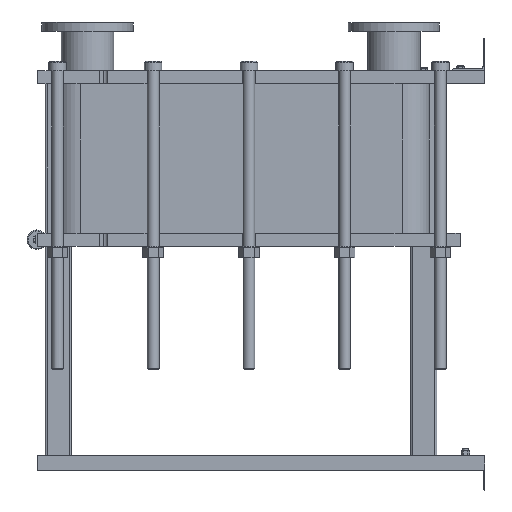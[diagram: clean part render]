
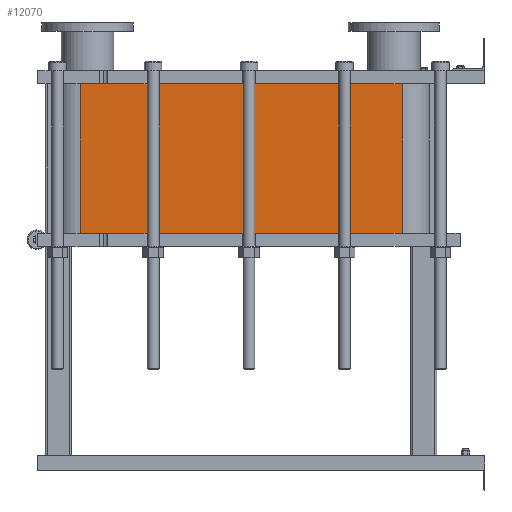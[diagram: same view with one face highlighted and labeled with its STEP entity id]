
A CAD part, left-side view. The second image highlights one B-rep face of the part: STEP entity #12070.
In plain terms, the highlighted planar face has unit normal (-1, 0, 0).
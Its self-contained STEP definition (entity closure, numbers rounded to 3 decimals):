
#1064=LINE('',#21140,#2164);
#1065=LINE('',#21144,#2165);
#1066=LINE('',#21146,#2166);
#1067=LINE('',#21147,#2167);
#2164=VECTOR('',#15790,10.);
#2165=VECTOR('',#15795,10.);
#2166=VECTOR('',#15796,10.);
#2167=VECTOR('',#15797,10.);
#3304=FACE_OUTER_BOUND('',#4091,.T.);
#4091=EDGE_LOOP('',(#9793,#9794,#9795,#9796));
#5677=VERTEX_POINT('',#21137);
#5678=VERTEX_POINT('',#21139);
#5679=VERTEX_POINT('',#21143);
#5680=VERTEX_POINT('',#21145);
#7118=EDGE_CURVE('',#5678,#5677,#1064,.T.);
#7120=EDGE_CURVE('',#5677,#5679,#1065,.T.);
#7121=EDGE_CURVE('',#5680,#5679,#1066,.T.);
#7122=EDGE_CURVE('',#5680,#5678,#1067,.T.);
#9793=ORIENTED_EDGE('',*,*,#7120,.T.);
#9794=ORIENTED_EDGE('',*,*,#7121,.F.);
#9795=ORIENTED_EDGE('',*,*,#7122,.T.);
#9796=ORIENTED_EDGE('',*,*,#7118,.T.);
#11441=PLANE('',#13191);
#12070=ADVANCED_FACE('',(#3304),#11441,.T.);
#13191=AXIS2_PLACEMENT_3D('',#21142,#15793,#15794);
#15790=DIRECTION('',(0.,0.,-1.));
#15793=DIRECTION('center_axis',(-1.,0.,0.));
#15794=DIRECTION('ref_axis',(0.,1.,0.));
#15795=DIRECTION('',(0.,-1.,0.));
#15796=DIRECTION('',(0.,0.,-1.));
#15797=DIRECTION('',(0.,1.,0.));
#21137=CARTESIAN_POINT('',(-248.152,1243.818,-458.85));
#21139=CARTESIAN_POINT('',(-248.152,1243.818,0.));
#21140=CARTESIAN_POINT('',(-248.152,1243.818,0.));
#21142=CARTESIAN_POINT('Origin',(-248.152,251.818,0.));
#21143=CARTESIAN_POINT('',(-248.152,251.818,-458.85));
#21144=CARTESIAN_POINT('',(-248.152,499.818,-458.85));
#21145=CARTESIAN_POINT('',(-248.152,251.818,0.));
#21146=CARTESIAN_POINT('',(-248.152,251.818,0.));
#21147=CARTESIAN_POINT('',(-248.152,251.818,0.));
